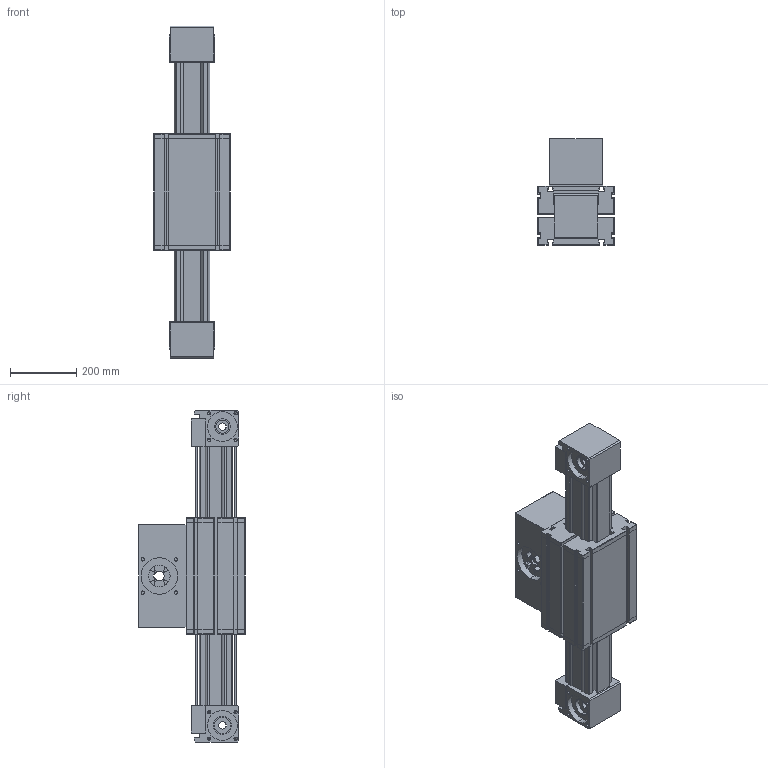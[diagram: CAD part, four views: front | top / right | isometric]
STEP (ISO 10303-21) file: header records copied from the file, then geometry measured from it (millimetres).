
FILE_DESCRIPTION (( 'STEP AP214' ), '1' );
FILE_NAME ('ELZT100.STEP', '2023-09-11T08:34:37', ( '' ), ( '' ), 'SwSTEP 2.0', 'SolidWorks 2020', '' );
FILE_SCHEMA (( 'AUTOMOTIVE_DESIGN' ));
Length unit declared in the file: millimetre
Products named in the file (6): profile^ELZT100; ELZT100; carriage^ELZT100_carriage version 0; timing belt reverse unit carriage^ELZT100_coupling claw pos.2; timing belt reverse unit^ELZT100_coupling claw pos.2; timing belt reverse unit^ELZT100_coupling claw pos.1
Assembly tree (6 placements, depth 2):
  ELZT100
    profile^ELZT100
    carriage^ELZT100_carriage version 0  x2
    timing belt reverse unit carriage^ELZT100_coupling claw pos.2
    timing belt reverse unit^ELZT100_coupling claw pos.1
    timing belt reverse unit^ELZT100_coupling claw pos.2
Bounding box: 230 x 321 x 1000 mm (x, y, z)
Volume: 26854032.1 mm3; surface area: 2161083.5 mm2
Topology: 18 solids, 18 shells, 864 faces, 2286 edges, 1466 vertices
Faces by surface type: plane 493, cylinder 281, cone 70, torus 16, sphere 4
Entity records: 19217 total; most frequent: CARTESIAN_POINT 3377, DIRECTION 3259, ORIENTED_EDGE 3122, EDGE_CURVE 1561, AXIS2_PLACEMENT_3D 1110, LINE 1039, VECTOR 1039, VERTEX_POINT 1012
